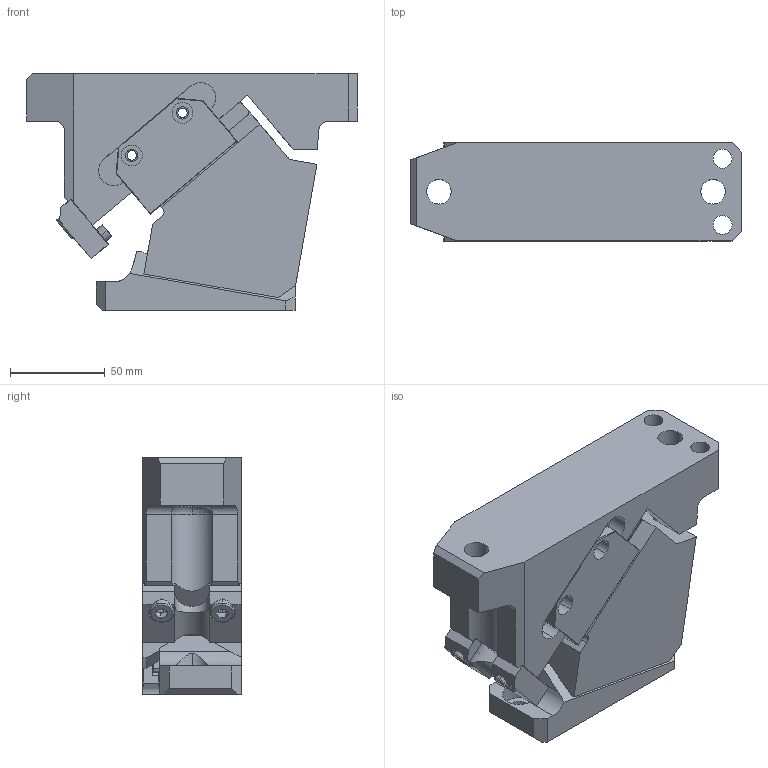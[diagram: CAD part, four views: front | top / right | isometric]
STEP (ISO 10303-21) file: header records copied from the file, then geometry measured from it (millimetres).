
FILE_DESCRIPTION (( 'STEP AP203' ), '1' );
FILE_NAME ('CLD052.10.step', '2014-05-05T08:34:17', ( '' ), ( '' ), 'SwSTEP 2.0', 'SolidWorks 2013', '' );
FILE_SCHEMA (( 'CONFIG_CONTROL_DESIGN' ));
Length unit declared in the file: millimetre
Products named in the file (4): CLD05210-02 CAM SLIDER; CLD05210-03 CAM DRIVER; CLD052.10; CLD05210-01 CAM BASE
Assembly tree (3 placements, depth 2):
  CLD052.10
    CLD05210-01 CAM BASE
    CLD05210-02 CAM SLIDER
    CLD05210-03 CAM DRIVER
Bounding box: 175 x 52 x 125 mm (x, y, z)
Volume: 682963 mm3; surface area: 114949.1 mm2
Topology: 3 solids, 7 shells, 377 faces, 977 edges, 618 vertices
Faces by surface type: plane 231, cylinder 121, cone 14, torus 11
Entity records: 12003 total; most frequent: CARTESIAN_POINT 2303, DIRECTION 1949, ORIENTED_EDGE 1934, EDGE_CURVE 967, AXIS2_PLACEMENT_3D 654, VECTOR 641, LINE 641, VERTEX_POINT 618
